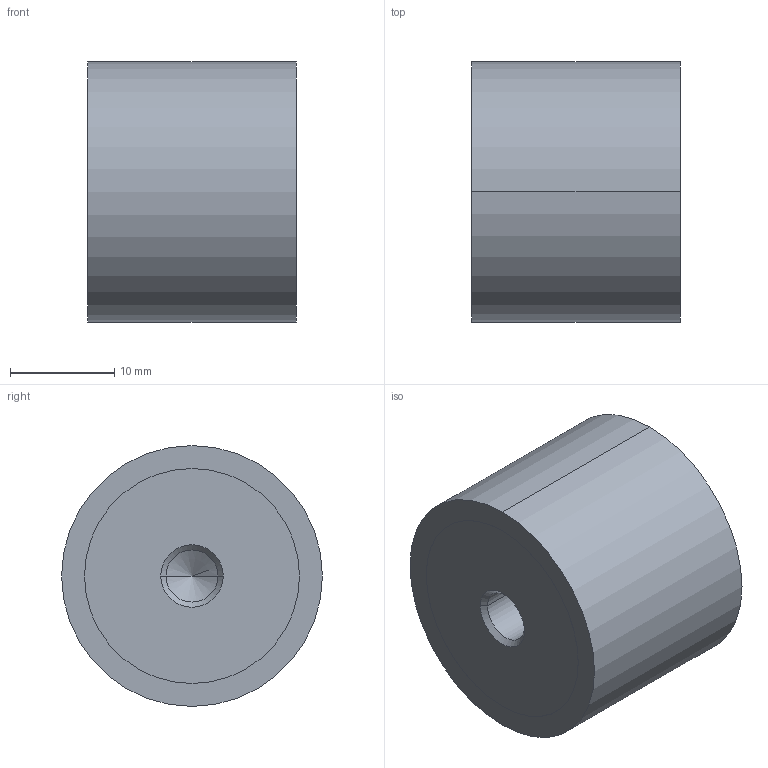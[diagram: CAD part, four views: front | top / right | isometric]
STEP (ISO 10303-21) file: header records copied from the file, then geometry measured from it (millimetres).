
FILE_DESCRIPTION (( 'STEP AP214' ), '1' );
FILE_NAME ('451-25-20-M6-EE-55.step', '2020-03-05T09:11:35', ( '' ), ( '' ), 'SwSTEP 2.0', 'SolidWorks 2019', '' );
FILE_SCHEMA (( 'AUTOMOTIVE_DESIGN' ));
Length unit declared in the file: millimetre
Products named in the file (1): 451-25-20-M6-EE-55
Bounding box: 20 x 25 x 25 mm (x, y, z)
Volume: 9551.9 mm3; surface area: 2740.2 mm2
Topology: 1 solids, 1 shells, 22 faces, 46 edges, 26 vertices
Faces by surface type: cylinder 10, cone 8, plane 4
Entity records: 684 total; most frequent: DIRECTION 112, CARTESIAN_POINT 91, ORIENTED_EDGE 84, AXIS2_PLACEMENT_3D 47, EDGE_CURVE 42, VERTEX_POINT 26, EDGE_LOOP 26, CIRCLE 24
